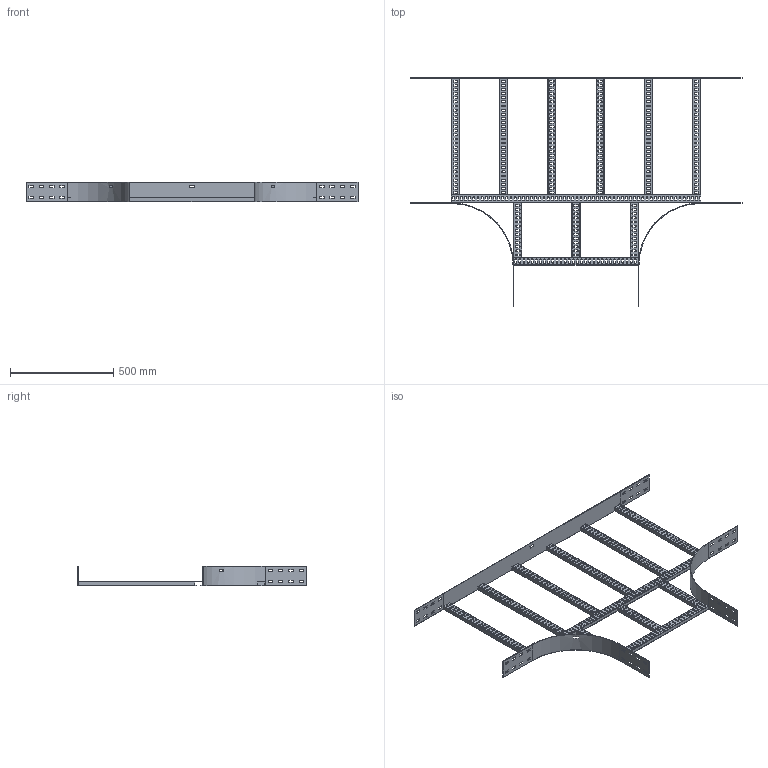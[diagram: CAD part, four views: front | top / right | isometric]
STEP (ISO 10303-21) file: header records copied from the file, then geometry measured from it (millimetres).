
FILE_DESCRIPTION(/* description */ ('','CAx-IF Rec.Pracs.---Representation and Presentation of Product Manufacturing Information (PMI)---4.0---2014-10-13'),/* implementation_level */ '2;1');
FILE_NAME(/* name */ 'Eurostrut_EET100-600-300_T-Piece for Cable Ladder ECL.step',/* time_stamp */ '2026-09-03T15:51:38+02:00',/* author */ (''),/* organization */ (''),/* preprocessor_version */ 'ST-DEVELOPER v20.1',/* originating_system */ 'Autodesk Revit 2027 27.2.0.39',/* authorisation */ '');
FILE_SCHEMA (('AP242_MANAGED_MODEL_BASED_3D_ENGINEERING_MIM_LF { 1 0 10303 442 2 1 4 }'));
Products named in the file (9): TopLevelAssembly; Sweep; Sweep_1; Eurostrut_Cable Ladder_Rung_With slots; Eurostrut_Cable Ladder_Rung_With slots_1; Eurostrut_Cable Ladder_Rung Array Straight_Slotted; Eurostrut_Cable Ladder_Rung Array Straight_Slotted_1; Sweep_2; Eurostrut_Cable Ladder_Accessory End_54-94-142
Assembly tree (13 placements, depth 2):
  TopLevelAssembly
    Sweep
    Sweep_1
    Eurostrut_Cable Ladder_Rung_With slots
    Eurostrut_Cable Ladder_Rung_With slots_1
    Eurostrut_Cable Ladder_Rung Array Straight_Slotted
    Eurostrut_Cable Ladder_Rung Array Straight_Slotted_1
    Sweep_2
    Eurostrut_Cable Ladder_Accessory End_54-94-142  x6
Bounding box: 1611 x 1111 x 94.04 mm (x, y, z)
Volume: 1644785.3 mm3; surface area: 1667130.4 mm2
Topology: 20 solids, 20 shells, 1648 faces, 4824 edges, 3216 vertices
Faces by surface type: plane 1004, bspline 596, cylinder 48
Entity records: 66800 total; most frequent: CARTESIAN_POINT 27032, ORIENTED_EDGE 8568, DIRECTION 7348, EDGE_CURVE 4284, LINE 2988, VECTOR 2988, VERTEX_POINT 2856, AXIS2_PLACEMENT_3D 2180
